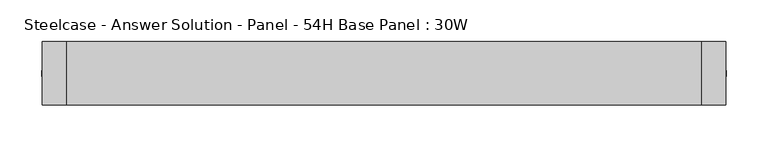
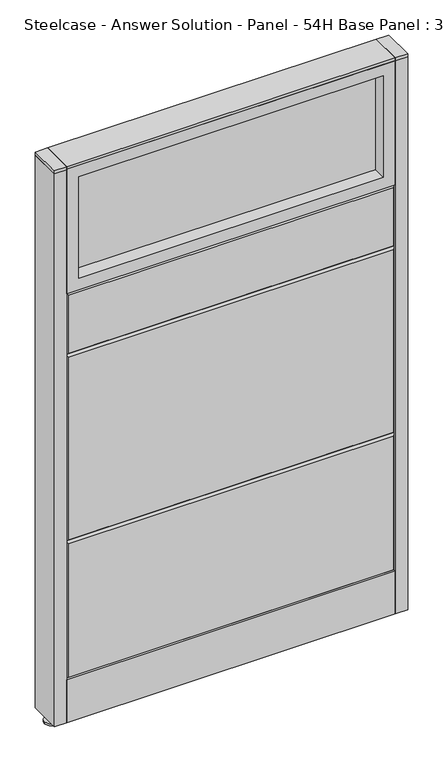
"""IFC4 building model written with IfcOpenShell, lengths in millimetres: furniture geometry, Steelcase - Answer Solution - Panel - 54H Base Panel : 30W."""

from ifc_helpers import new_model, si_unit, point, frame, frame_2d, origin, place, context, project, spatial, polyline, circle_curve, trimmed, segment, composite_curve, outline, extrude, faceted_brep, source, transform, mapped, element, save


def steelcase_answer_solution_panel_54h_base_panel_30w_29c5d042(model_context):
    return source(origin(), model_context, "Body", "SolidModel", [
        extrude(outline(composite_curve([segment(trimmed(circle_curve(frame_2d((395.224, 0.0320214)), 5.08), [point((400.304, 0.0320214))], [point((390.144, 0.0320214))], False, "CARTESIAN"), True, "CONTINUOUS"), segment(trimmed(circle_curve(frame_2d((395.224, 0.0320214)), 5.08), [point((390.144, 0.0320214))], [point((400.304, 0.0320214))], False, "CARTESIAN"), True, "CONTINUOUS")], self_intersect=False)), frame((0.0, 0.0, 5.0799671), z_axis=(0.0, 0.0, 1.0), x_axis=(1.0, 0.0, 0.0)), (0.0, 0.0, 1.0), 10.414),
        extrude(outline(composite_curve([segment(trimmed(circle_curve(frame_2d((395.224, 0.0320214)), 15.24), [point((410.464, 0.0320214))], [point((379.984, 0.0320214))], False, "CARTESIAN"), True, "CONTINUOUS"), segment(trimmed(circle_curve(frame_2d((395.224, 0.0320214)), 15.24), [point((379.984, 0.0320214))], [point((410.464, 0.0320214))], False, "CARTESIAN"), True, "CONTINUOUS")], self_intersect=False)), frame((0.0, 0.0, -3.29e-05), z_axis=(0.0, 0.0, 1.0), x_axis=(1.0, 0.0, 0.0)), (0.0, 0.0, 1.0), 5.08),
        extrude(outline(polyline([(409.575, 38.1320408), (409.575, -38.0679592), (381.0, -38.0679592), (381.0, 38.1320408), (409.575, 38.1320408)])), frame((0.0, 0.0, 1370.6348), z_axis=(0.0, 0.0, 1.0), x_axis=(1.0, 0.0, 0.0)), (0.0, 0.0, 1.0), 7.3151671),
        extrude(outline(polyline([(409.575, 38.1320408), (409.575, -38.0679592), (381.0, -38.0679592), (381.0, 38.1320408), (409.575, 38.1320408)])), frame((0.0, 0.0, 15.4939671), z_axis=(0.0, 0.0, 1.0), x_axis=(1.0, 0.0, 0.0)), (0.0, 0.0, 1.0), 1355.1408329),
        extrude(outline(composite_curve([segment(trimmed(circle_curve(frame_2d((-395.224, 0.0320214)), 5.08), [point((-400.304, 0.0320214))], [point((-390.144, 0.0320214))], False, "CARTESIAN"), True, "CONTINUOUS"), segment(trimmed(circle_curve(frame_2d((-395.224, 0.0320214)), 5.08), [point((-390.144, 0.0320214))], [point((-400.304, 0.0320214))], False, "CARTESIAN"), True, "CONTINUOUS")], self_intersect=False)), frame((0.0, 0.0, 5.0799671), z_axis=(0.0, 0.0, 1.0), x_axis=(1.0, 0.0, 0.0)), (0.0, 0.0, 1.0), 10.414),
        extrude(outline(composite_curve([segment(trimmed(circle_curve(frame_2d((-395.224, 0.0320214)), 15.24), [point((-410.464, 0.0320214))], [point((-379.984, 0.0320214))], False, "CARTESIAN"), True, "CONTINUOUS"), segment(trimmed(circle_curve(frame_2d((-395.224, 0.0320214)), 15.24), [point((-379.984, 0.0320214))], [point((-410.464, 0.0320214))], False, "CARTESIAN"), True, "CONTINUOUS")], self_intersect=False)), frame((0.0, 0.0, -3.29e-05), z_axis=(0.0, 0.0, 1.0), x_axis=(1.0, 0.0, 0.0)), (0.0, 0.0, 1.0), 5.08),
        extrude(outline(polyline([(-409.575, 38.1320408), (-381.0, 38.1320408), (-381.0, -38.0679592), (-409.575, -38.0679592), (-409.575, 38.1320408)])), frame((0.0, 0.0, 1370.6348), z_axis=(0.0, 0.0, 1.0), x_axis=(1.0, 0.0, 0.0)), (0.0, 0.0, 1.0), 7.3151671),
        extrude(outline(polyline([(-409.575, 38.1320408), (-381.0, 38.1320408), (-381.0, -38.0679592), (-409.575, -38.0679592), (-409.575, 38.1320408)])), frame((0.0, 0.0, 15.4939671), z_axis=(0.0, 0.0, 1.0), x_axis=(1.0, 0.0, 0.0)), (0.0, 0.0, 1.0), 1355.1408329),
        extrude(outline(polyline([(-353.06, 6.346049), (353.06, 6.346049), (353.06, -6.353951), (-353.06, -6.353951), (-353.06, 6.346049)])), frame((0.0, 0.0, 1094.74), z_axis=(0.0, 0.0, 1.0), x_axis=(1.0, 0.0, 0.0)), (0.0, 0.0, 1.0), 248.92),
        extrude(outline(polyline([(1371.6, -381.0), (1066.8, -381.0), (1066.8, 381.0), (1371.6, 381.0), (1371.6, -381.0)]), holes=[polyline([(1343.66, -353.06), (1343.66, 353.06), (1094.74, 353.06), (1094.74, -353.06), (1343.66, -353.06)])]), frame((0.0, -38.103951, 0.0), z_axis=(0.0, 1.0, 0.0), x_axis=(0.0, 0.0, 1.0)), (0.0, 0.0, 1.0), 76.2),
        faceted_brep([(-376.174, 38.1635011, 1061.974), (376.174, 38.1635011, 1061.974), (376.174, 38.1635011, 919.226), (-376.174, 38.1635011, 919.226), (-381.0, 33.3375011, 1066.8), (-381.0, 33.3375011, 914.4), (381.0, 33.3375011, 914.4), (381.0, 33.3375011, 1066.8)], [[[0, 1, 2, 3]], [[4, 5, 6, 7]], [[4, 7, 1, 0]], [[7, 6, 2, 1]], [[6, 5, 3, 2]], [[5, 4, 0, 3]]]),
        faceted_brep([(-376.174, 38.1635011, 909.574), (376.174, 38.1635011, 909.574), (376.174, 38.1635011, 462.026), (-376.174, 38.1635011, 462.026), (-381.0, 33.3375011, 914.4), (-381.0, 33.3375011, 457.2), (381.0, 33.3375011, 457.2), (381.0, 33.3375011, 914.4)], [[[0, 1, 2, 3]], [[4, 5, 6, 7]], [[4, 7, 1, 0]], [[7, 6, 2, 1]], [[6, 5, 3, 2]], [[5, 4, 0, 3]]]),
        faceted_brep([(-376.174, 38.1635011, 452.374), (376.174, 38.1635011, 452.374), (376.174, 38.1635011, 125.476), (-376.174, 38.1635011, 125.476), (-381.0, 33.3375011, 457.2), (-381.0, 33.3375011, 120.65), (381.0, 33.3375011, 120.65), (381.0, 33.3375011, 457.2)], [[[0, 1, 2, 3]], [[4, 5, 6, 7]], [[4, 7, 1, 0]], [[7, 6, 2, 1]], [[6, 5, 3, 2]], [[5, 4, 0, 3]]]),
        extrude(outline(polyline([(353.06, -6.346049), (-353.06, -6.346049), (-353.06, 6.353951), (353.06, 6.353951), (353.06, -6.346049)])), frame((0.0, 0.0, 1094.74), z_axis=(0.0, 0.0, 1.0), x_axis=(1.0, 0.0, 0.0)), (0.0, 0.0, 1.0), 248.92),
        extrude(outline(polyline([(1371.6, 381.0), (1371.6, -381.0), (1066.8, -381.0), (1066.8, 381.0), (1371.6, 381.0)]), holes=[polyline([(1343.66, 353.06), (1094.74, 353.06), (1094.74, -353.06), (1343.66, -353.06), (1343.66, 353.06)])]), frame((0.0, -38.096049, 0.0), z_axis=(0.0, 1.0, 0.0), x_axis=(0.0, 0.0, 1.0)), (0.0, 0.0, 1.0), 76.2),
        faceted_brep([(376.174, -38.1635011, 1061.974), (-376.174, -38.1635011, 1061.974), (-376.174, -38.1635011, 919.226), (376.174, -38.1635011, 919.226), (381.0, -33.3375011, 1066.8), (381.0, -33.3375011, 914.4), (-381.0, -33.3375011, 914.4), (-381.0, -33.3375011, 1066.8)], [[[0, 1, 2, 3]], [[4, 5, 6, 7]], [[4, 7, 1, 0]], [[7, 6, 2, 1]], [[6, 5, 3, 2]], [[5, 4, 0, 3]]]),
        faceted_brep([(376.174, -38.1635011, 909.574), (-376.174, -38.1635011, 909.574), (-376.174, -38.1635011, 462.026), (376.174, -38.1635011, 462.026), (381.0, -33.3375011, 914.4), (381.0, -33.3375011, 457.2), (-381.0, -33.3375011, 457.2), (-381.0, -33.3375011, 914.4)], [[[0, 1, 2, 3]], [[4, 5, 6, 7]], [[4, 7, 1, 0]], [[7, 6, 2, 1]], [[6, 5, 3, 2]], [[5, 4, 0, 3]]]),
        faceted_brep([(376.174, -38.1635011, 452.374), (-376.174, -38.1635011, 452.374), (-376.174, -38.1635011, 125.476), (376.174, -38.1635011, 125.476), (381.0, -33.3375011, 457.2), (381.0, -33.3375011, 120.65), (-381.0, -33.3375011, 120.65), (-381.0, -33.3375011, 457.2)], [[[0, 1, 2, 3]], [[4, 5, 6, 7]], [[4, 7, 1, 0]], [[7, 6, 2, 1]], [[6, 5, 3, 2]], [[5, 4, 0, 3]]]),
        extrude(outline(polyline([(381.0, 38.1000194), (381.0, -38.1000194), (-381.0, -38.1000194), (-381.0, 38.1000194), (381.0, 38.1000194)])), frame((0.0, 0.0, 1371.6), z_axis=(0.0, 0.0, 1.0), x_axis=(1.0, 0.0, 0.0)), (0.0, 0.0, 1.0), 6.35),
        extrude(outline(polyline([(25.4000011, 119.8575157), (25.4000011, 120.65), (38.1000194, 120.65), (38.1000194, 15.494), (37.3075215, 15.494), (37.3075215, 119.8575157), (25.4000011, 119.8575157)])), frame((-381.0, 0.0, 0.0), z_axis=(1.0, 0.0, 0.0), x_axis=(0.0, 1.0, 0.0)), (0.0, 0.0, 1.0), 762.0),
        extrude(outline(polyline([(-25.4000011, 119.8575157), (-37.3075215, 119.8575157), (-37.3075215, 15.494), (-38.1000194, 15.494), (-38.1000194, 120.65), (-25.4000011, 120.65), (-25.4000011, 119.8575157)])), frame((-381.0, 0.0, 0.0), z_axis=(1.0, 0.0, 0.0), x_axis=(0.0, 1.0, 0.0)), (0.0, 0.0, 1.0), 762.0),
    ])


if __name__ == "__main__":
    model = new_model("IFC4")
    model_context = context("Model", 3, world=origin())
    ifc_project = project(units=[si_unit("LENGTHUNIT", "METRE", prefix="MILLI")], contexts=[model_context])
    site = spatial("IfcSite", under=ifc_project)
    building = spatial("IfcBuilding", under=site)
    placement = place(None, origin())
    steelcase_answer_solution_panel_54h_base_panel_30w_shape = steelcase_answer_solution_panel_54h_base_panel_30w_29c5d042(model_context)
    element("IfcFurniture", 1, ObjectType="Steelcase - Answer Solution - Panel - 54H Base Panel : 30W", at=placement, inside=building, context=model_context, shape_type="MappedRepresentation", body=[
        mapped(steelcase_answer_solution_panel_54h_base_panel_30w_shape, transform((0.0, 0.0, 0.0), x_axis=(1.0, 0.0, 0.0), y_axis=(0.0, 1.0, 0.0), z_axis=(0.0, 0.0, 1.0))),
    ])
    save(model, "model.ifc")
